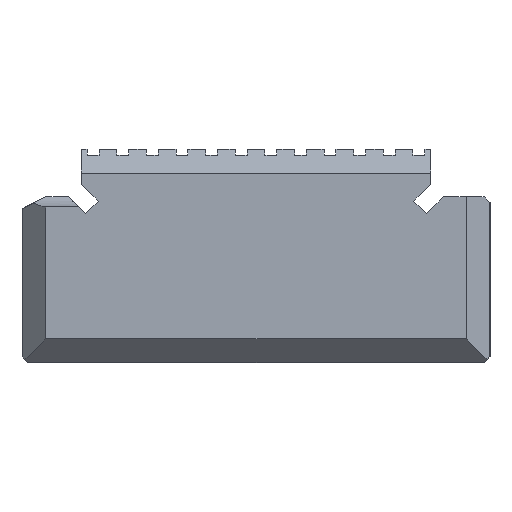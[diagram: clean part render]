
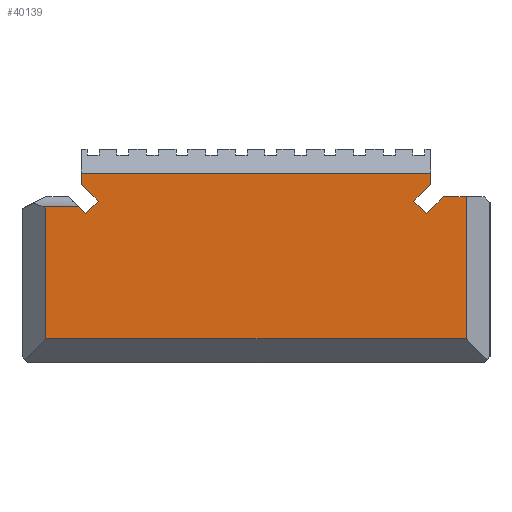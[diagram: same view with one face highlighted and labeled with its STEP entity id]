
A CAD part, left-side view. The second image highlights one B-rep face of the part: STEP entity #40139.
In plain terms, the highlighted planar face has unit normal (-1, 0, 0).
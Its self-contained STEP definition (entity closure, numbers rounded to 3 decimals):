
#44=DIRECTION('',(0.,0.707,-0.707));
#45=VECTOR('',#44,2.022);
#46=CARTESIAN_POINT('',(-62.,-15.811,5.));
#47=LINE('',#46,#45);
#48=DIRECTION('',(0.,1.,0.));
#49=VECTOR('',#48,1.939);
#50=CARTESIAN_POINT('',(-62.,-17.75,5.));
#51=LINE('',#50,#49);
#52=DIRECTION('',(0.,0.,-1.));
#53=VECTOR('',#52,12.);
#54=CARTESIAN_POINT('',(-62.,-17.75,5.));
#55=LINE('',#54,#53);
#56=DIRECTION('',(0.,1.,0.));
#57=VECTOR('',#56,35.5);
#58=CARTESIAN_POINT('',(-62.,-17.75,-7.));
#59=LINE('',#58,#57);
#60=DIRECTION('',(0.,0.,-1.));
#61=VECTOR('',#60,11.136);
#62=CARTESIAN_POINT('',(-62.,17.75,4.136));
#63=LINE('',#62,#61);
#64=DIRECTION('',(0.,1.,0.));
#65=VECTOR('',#64,2.803);
#66=CARTESIAN_POINT('',(-62.,14.947,4.136));
#67=LINE('',#66,#65);
#68=DIRECTION('',(0.,-0.707,-0.707));
#69=VECTOR('',#68,0.8);
#70=CARTESIAN_POINT('',(-62.,14.947,4.136));
#71=LINE('',#70,#69);
#72=DIRECTION('',(0.,-0.707,0.707));
#73=VECTOR('',#72,1.5);
#74=CARTESIAN_POINT('',(-62.,14.381,3.57));
#75=LINE('',#74,#73);
#76=DIRECTION('',(0.,-0.707,-0.707));
#77=VECTOR('',#76,2.022);
#78=CARTESIAN_POINT('',(-62.,14.75,6.061));
#79=LINE('',#78,#77);
#80=DIRECTION('',(0.,-1.,0.));
#81=VECTOR('',#80,29.5);
#82=CARTESIAN_POINT('',(-62.,14.75,7.));
#83=LINE('',#82,#81);
#84=DIRECTION('',(0.,0.,-1.));
#85=VECTOR('',#84,0.939);
#86=CARTESIAN_POINT('',(-62.,-14.75,7.));
#87=LINE('',#86,#85);
#88=DIRECTION('',(0.,0.707,-0.707));
#89=VECTOR('',#88,2.022);
#90=CARTESIAN_POINT('',(-62.,-14.75,6.061));
#91=LINE('',#90,#89);
#92=DIRECTION('',(0.,0.707,0.707));
#93=VECTOR('',#92,1.5);
#94=CARTESIAN_POINT('',(-62.,-14.381,3.57));
#95=LINE('',#94,#93);
#12050=DIRECTION('',(0.,0.,-1.));
#12051=VECTOR('',#12050,0.939);
#12052=CARTESIAN_POINT('',(-62.,14.75,7.));
#12053=LINE('',#12052,#12051);
#30108=CARTESIAN_POINT('',(-62.,-17.75,-7.));
#30109=CARTESIAN_POINT('',(-62.,17.75,-7.));
#30110=VERTEX_POINT('',#30108);
#30111=VERTEX_POINT('',#30109);
#30145=CARTESIAN_POINT('',(-62.,-14.75,7.));
#30147=VERTEX_POINT('',#30145);
#30174=CARTESIAN_POINT('',(-62.,-17.75,5.));
#30175=VERTEX_POINT('',#30174);
#30181=CARTESIAN_POINT('',(-62.,14.75,7.));
#30183=VERTEX_POINT('',#30181);
#30186=CARTESIAN_POINT('',(-62.,14.75,6.061));
#30188=VERTEX_POINT('',#30186);
#30198=CARTESIAN_POINT('',(-62.,14.947,4.136));
#30199=CARTESIAN_POINT('',(-62.,14.381,3.57));
#30200=VERTEX_POINT('',#30198);
#30201=VERTEX_POINT('',#30199);
#30202=CARTESIAN_POINT('',(-62.,13.32,4.631));
#30203=VERTEX_POINT('',#30202);
#30302=CARTESIAN_POINT('',(-62.,-14.381,3.57));
#30304=VERTEX_POINT('',#30302);
#30306=CARTESIAN_POINT('',(-62.,-13.32,4.631));
#30308=VERTEX_POINT('',#30306);
#30310=CARTESIAN_POINT('',(-62.,-15.811,5.));
#30311=VERTEX_POINT('',#30310);
#30312=CARTESIAN_POINT('',(-62.,-14.75,6.061));
#30313=VERTEX_POINT('',#30312);
#30434=CARTESIAN_POINT('',(-62.,17.75,4.136));
#30435=VERTEX_POINT('',#30434);
#40105=CARTESIAN_POINT('',(-62.,19.75,-9.));
#40106=DIRECTION('',(-1.,0.,0.));
#40107=DIRECTION('',(0.,-1.,0.));
#40108=AXIS2_PLACEMENT_3D('',#40105,#40106,#40107);
#40109=PLANE('',#40108);
#40111=ORIENTED_EDGE('',*,*,#40110,.F.);
#40113=ORIENTED_EDGE('',*,*,#40112,.F.);
#40115=ORIENTED_EDGE('',*,*,#40114,.T.);
#40116=ORIENTED_EDGE('',*,*,#40091,.T.);
#40118=ORIENTED_EDGE('',*,*,#40117,.F.);
#40120=ORIENTED_EDGE('',*,*,#40119,.F.);
#40122=ORIENTED_EDGE('',*,*,#40121,.T.);
#40124=ORIENTED_EDGE('',*,*,#40123,.T.);
#40126=ORIENTED_EDGE('',*,*,#40125,.F.);
#40128=ORIENTED_EDGE('',*,*,#40127,.F.);
#40130=ORIENTED_EDGE('',*,*,#40129,.T.);
#40132=ORIENTED_EDGE('',*,*,#40131,.T.);
#40134=ORIENTED_EDGE('',*,*,#40133,.T.);
#40136=ORIENTED_EDGE('',*,*,#40135,.F.);
#40137=EDGE_LOOP('',(#40111,#40113,#40115,#40116,#40118,#40120,#40122,#40124,
#40126,#40128,#40130,#40132,#40134,#40136));
#40138=FACE_OUTER_BOUND('',#40137,.F.);
#40139=ADVANCED_FACE('',(#40138),#40109,.T.);
#40091=EDGE_CURVE('',#30110,#30111,#59,.T.);
#40110=EDGE_CURVE('',#30311,#30304,#47,.T.);
#40112=EDGE_CURVE('',#30175,#30311,#51,.T.);
#40114=EDGE_CURVE('',#30175,#30110,#55,.T.);
#40117=EDGE_CURVE('',#30435,#30111,#63,.T.);
#40119=EDGE_CURVE('',#30200,#30435,#67,.T.);
#40121=EDGE_CURVE('',#30200,#30201,#71,.T.);
#40123=EDGE_CURVE('',#30201,#30203,#75,.T.);
#40125=EDGE_CURVE('',#30188,#30203,#79,.T.);
#40127=EDGE_CURVE('',#30183,#30188,#12053,.T.);
#40129=EDGE_CURVE('',#30183,#30147,#83,.T.);
#40131=EDGE_CURVE('',#30147,#30313,#87,.T.);
#40133=EDGE_CURVE('',#30313,#30308,#91,.T.);
#40135=EDGE_CURVE('',#30304,#30308,#95,.T.);
